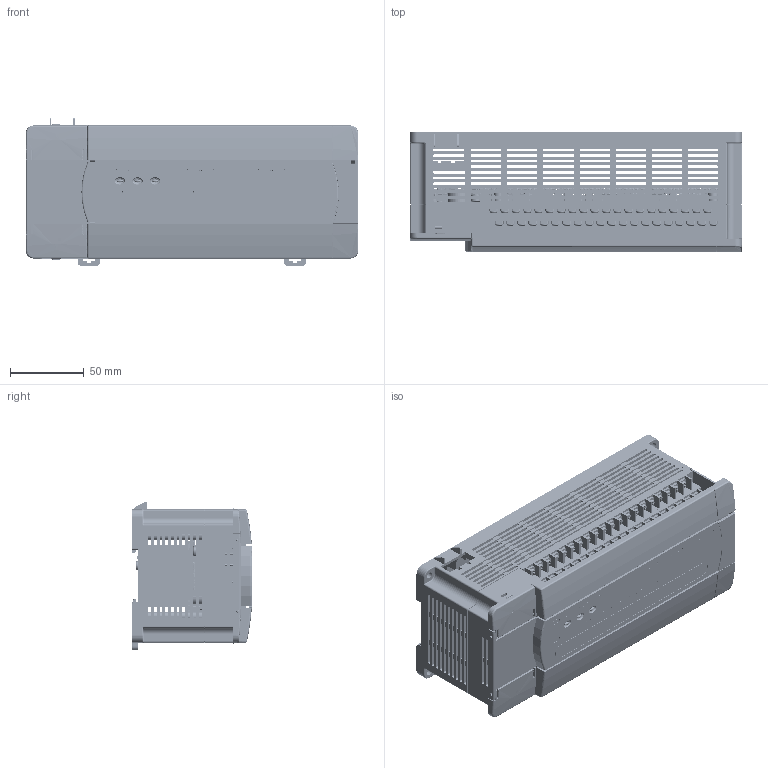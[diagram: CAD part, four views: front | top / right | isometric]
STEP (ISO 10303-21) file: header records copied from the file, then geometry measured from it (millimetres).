
FILE_DESCRIPTION((''),'2;1');
FILE_NAME('IVC1-3624MAR_ASM_ASM','2022-10-13T15:07:22',('Administrator'),(''),'CREO PARAMETRIC BY PTC INC, 2019080','CREO PARAMETRIC BY PTC INC, 2019080','');
FILE_SCHEMA(('CONFIG_CONTROL_DESIGN'));
Products named in the file (62): 80740050_1; 80740050SY1_ASM_1_ASM; 80880052_1; 40810003_ASM_1_ASM; 80740049_8; 80740049SY1_ASM_2_ASM; 80880051_1; 80880054_1; 80880050_2; 80880053_1; 80880055_2; 86400009_1; 86400008_1; 86400007_2; 40810004_ASM_2_ASM; 17003-05065-3D_A1_1; E-SR0603_1; E-SC0603_1; E-SR0805_1; E-SP-SMD45_1; E-SOP4-100-173_1; E-SD0805_1; E-SR1206_1; E-SOP14-26-170_1; E-SOP8-50-157A_1; E-SC0805_1; E-SC1206A_1; E-SCD6_3X5_7_1; E-DSW5-H_1; E-CAP2-460-16X8_1; E-SR2010_1; E-SR1210_1; E-SOP5-50-173_1; E-SOP5-50-173A_1; E-SOT23-1A_1; E-SF3518_1; E-RLY7-100-140_1; E-SL0805A_1; E-SOT223-1_1; E-SX4-3225A_1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
Assembly tree (846 placements, depth 5):
  IVC1-3624MAR_ASM_ASM
    IVC1-3624MAR_ASM_3_ASM
      40810003_ASM_1_ASM
        80740050SY1_ASM_1_ASM
          80740050_1
        80880052_1  x2
      40810004_ASM_2_ASM
        80740049SY1_ASM_2_ASM
          80740049_8
        80880051_1
        80880054_1
        80880050_2
        80880053_1
        80880055_2
        86400009_1
        86400008_1  x5
        86400007_2  x2
      17003-05065-3D_A1_ASM_1_ASM
        17003-05065-3D_A1_1
        E-SR0603_1  x284
        E-SC0603_1  x161
        E-SR0805_1  x16
        E-SP-SMD45_1  x74
        E-SOP4-100-173_1  x32
        E-SD0805_1  x63
        E-SR1206_1  x69
        E-SOP14-26-170_1  x8
        E-SOP8-50-157A_1  x3
        E-SC0805_1  x9
        E-SC1206A_1  x4
        E-SCD6_3X5_7_1  x2
        E-DSW5-H_1
        E-CAP2-460-16X8_1
        E-SR2010_1  x8
        E-SR1210_1  x2
        E-SOP5-50-173_1  x2
        E-SOP5-50-173A_1  x2
        E-SOT23-1A_1  x2
        E-SF3518_1  x4
        E-RLY7-100-140_1  x24
        E-SL0805A_1  x4
        E-SOT223-1_1
        E-SX4-3225A_1
        E-SD2216_1  x6
        E-SOP16-50-157_1  x8
        E-SX2-3215_1
        E-SOT23_1  x13
        E-TB0216-300-365-TM_1
        E-IDC14-OTM_1
        E-TB0220-300-365-TM_1
        E-SL0906_1  x2
        E-HEAD0207-TB_1
        E-PS2-10PIN_1
        E-DIN0105-5_08MM-TM_1
        E-SD1815_1
        E-SOT-353_1  x2
        E-SOD-123-A_1
        E-SL0603_1
        E-SOP16-26-180_1
        E-QFP100-050-1414LA_1
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Bounding box: 224.5 x 81.3 x 100 mm (x, y, z)
Volume: 353522.7 mm3; surface area: 371435.2 mm2
Topology: 840 solids, 846 shells, 36933 faces, 95703 edges, 60463 vertices
Faces by surface type: plane 24363, cylinder 9625, sphere 1826, torus 557, cone 453, bspline 75, extrusion 28, revolution 6
Entity records: 388761 total; most frequent: CARTESIAN_POINT 78960, ORIENTED_EDGE 64452, DIRECTION 64108, EDGE_CURVE 32237, VECTOR 23270, LINE 23242, VERTEX_POINT 21274, AXIS2_PLACEMENT_3D 20416
